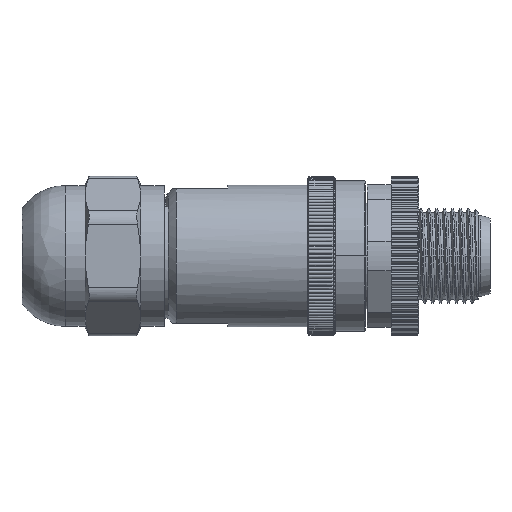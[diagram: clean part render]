
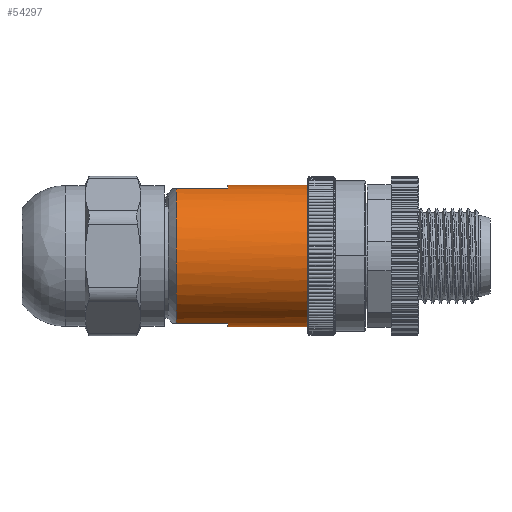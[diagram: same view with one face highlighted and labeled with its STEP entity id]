
A CAD part, left-side view. The second image highlights one B-rep face of the part: STEP entity #54297.
In plain terms, the highlighted cylindrical face has radius 8.95 mm (diameter 17.9 mm), a partial arc.
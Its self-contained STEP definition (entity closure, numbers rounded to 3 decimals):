
#12314=CARTESIAN_POINT('',(0.,4.9,0.));
#12315=DIRECTION('',(0.,-1.,0.));
#12316=DIRECTION('',(0.,0.,1.));
#12317=AXIS2_PLACEMENT_3D('',#12314,#12315,#12316);
#12319=DIRECTION('',(0.,-1.,0.));
#12320=VECTOR('',#12319,10.1);
#12321=CARTESIAN_POINT('',(0.,15.,-8.95));
#12322=LINE('',#12321,#12320);
#12323=DIRECTION('',(0.,-1.,0.));
#12324=VECTOR('',#12323,6.5);
#12325=CARTESIAN_POINT('',(-2.802,21.5,
-8.5));
#12326=LINE('',#12325,#12324);
#12327=DIRECTION('',(0.,1.,0.));
#12328=VECTOR('',#12327,6.5);
#12329=CARTESIAN_POINT('',(-2.802,15.,8.5));
#12330=LINE('',#12329,#12328);
#12331=DIRECTION('',(0.,-1.,0.));
#12332=VECTOR('',#12331,10.1);
#12333=CARTESIAN_POINT('',(0.,15.,8.95));
#12334=LINE('',#12333,#12332);
#14882=CARTESIAN_POINT('',(0.,15.,0.));
#14883=DIRECTION('',(0.,1.,0.));
#14884=DIRECTION('',(0.,0.,-1.));
#14885=AXIS2_PLACEMENT_3D('',#14882,#14883,#14884);
#14938=CARTESIAN_POINT('',(0.,21.5,0.));
#14939=DIRECTION('',(0.,1.,0.));
#14940=DIRECTION('',(-0.313,0.,-0.95));
#14941=AXIS2_PLACEMENT_3D('',#14938,#14939,#14940);
#34291=CARTESIAN_POINT('',(0.,15.,0.));
#34292=DIRECTION('',(0.,1.,0.));
#34293=DIRECTION('',(-0.313,0.,0.95));
#34294=AXIS2_PLACEMENT_3D('',#34291,#34292,#34293);
#40309=CARTESIAN_POINT('',(-2.802,15.,-8.5));
#40311=VERTEX_POINT('',#40309);
#40312=CARTESIAN_POINT('',(-2.802,15.,8.5));
#40314=VERTEX_POINT('',#40312);
#40476=CARTESIAN_POINT('',(0.,15.,-8.95));
#40477=VERTEX_POINT('',#40476);
#40480=CARTESIAN_POINT('',(0.,15.,8.95));
#40481=VERTEX_POINT('',#40480);
#40488=CARTESIAN_POINT('',(-2.802,21.5,
-8.5));
#40489=VERTEX_POINT('',#40488);
#40490=CARTESIAN_POINT('',(-2.802,21.5,
8.5));
#40491=VERTEX_POINT('',#40490);
#44419=CARTESIAN_POINT('',(0.,4.9,-8.95));
#44420=VERTEX_POINT('',#44419);
#44421=CARTESIAN_POINT('',(0.,4.9,8.95));
#44422=VERTEX_POINT('',#44421);
#54277=CARTESIAN_POINT('',(0.,33.5,0.));
#54278=DIRECTION('',(0.,-1.,0.));
#54279=DIRECTION('',(0.,0.,-1.));
#54280=AXIS2_PLACEMENT_3D('',#54277,#54278,#54279);
#54281=CYLINDRICAL_SURFACE('',#54280,8.95);
#54282=ORIENTED_EDGE('',*,*,#51879,.T.);
#54283=ORIENTED_EDGE('',*,*,#53221,.F.);
#54285=ORIENTED_EDGE('',*,*,#54284,.T.);
#54287=ORIENTED_EDGE('',*,*,#54286,.F.);
#54289=ORIENTED_EDGE('',*,*,#54288,.T.);
#54291=ORIENTED_EDGE('',*,*,#54290,.F.);
#54293=ORIENTED_EDGE('',*,*,#54292,.T.);
#54294=ORIENTED_EDGE('',*,*,#53209,.T.);
#54295=EDGE_LOOP('',(#54282,#54283,#54285,#54287,#54289,#54291,#54293,#54294));
#54296=FACE_OUTER_BOUND('',#54295,.F.);
#54297=ADVANCED_FACE('',(#54296),#54281,.T.);
#12318=CIRCLE('',#12317,8.95);
#14886=CIRCLE('',#14885,8.95);
#14942=CIRCLE('',#14941,8.95);
#34295=CIRCLE('',#34294,8.95);
#51879=EDGE_CURVE('',#44422,#44420,#12318,.T.);
#53209=EDGE_CURVE('',#40481,#44422,#12334,.T.);
#53221=EDGE_CURVE('',#40477,#44420,#12322,.T.);
#54284=EDGE_CURVE('',#40477,#40311,#14886,.T.);
#54286=EDGE_CURVE('',#40489,#40311,#12326,.T.);
#54288=EDGE_CURVE('',#40489,#40491,#14942,.T.);
#54290=EDGE_CURVE('',#40314,#40491,#12330,.T.);
#54292=EDGE_CURVE('',#40314,#40481,#34295,.T.);
